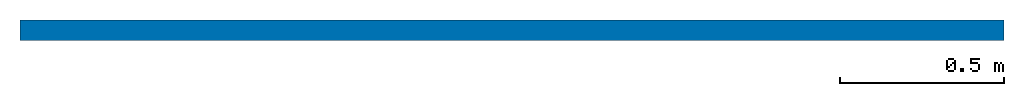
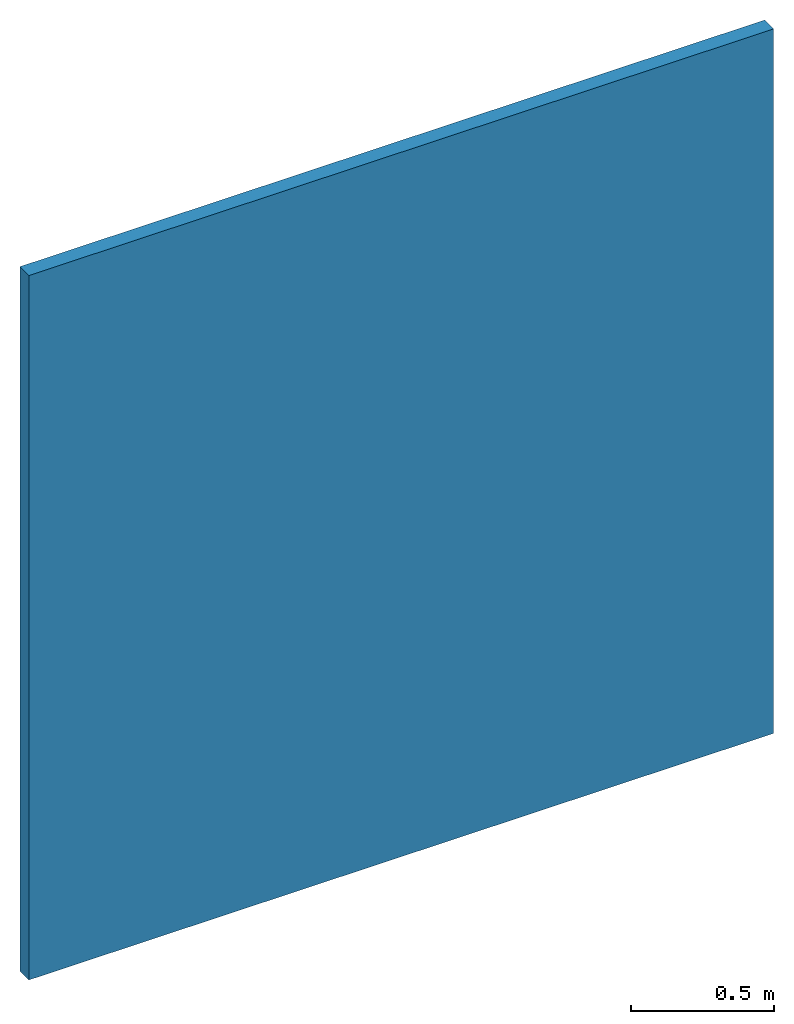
# One storey: 1 wall.
"""IFC2X3 building model written with IfcOpenShell, lengths in millimetres."""

from ifc_helpers import new_model, entity, si_unit, converted_unit, derived_unit, direction, frame, frame_2d, origin, place, context, subcontext, project, spatial, rectangle, extrude, material, layer, layer_set, layer_usage, type_object, element, save


model = new_model("IFC2X3")

# Units and contexts
model_context = context("Model", 3, precision=0.01, world=origin(), true_north=direction((6.12303176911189e-17, 1.0)))
body_context = subcontext(model_context, "Body", "Model", "MODEL_VIEW")
ifc_project = project(units=[si_unit("LENGTHUNIT", "METRE", prefix="MILLI"), si_unit("AREAUNIT", "SQUARE_METRE"), si_unit("VOLUMEUNIT", "CUBIC_METRE"), converted_unit("PLANEANGLEUNIT", "DEGREE", entity("IfcRatioMeasure", 0.0174532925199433), si_unit("PLANEANGLEUNIT", "RADIAN"), dimensions=[0, 0, 0, 0, 0, 0, 0]), si_unit("MASSUNIT", "GRAM", prefix="KILO"), si_unit("TIMEUNIT", "SECOND"), si_unit("FREQUENCYUNIT", "HERTZ"), si_unit("THERMODYNAMICTEMPERATUREUNIT", "DEGREE_CELSIUS"), derived_unit("THERMALTRANSMITTANCEUNIT", [(si_unit("MASSUNIT", "GRAM", prefix="KILO"), 1), (si_unit("THERMODYNAMICTEMPERATUREUNIT", "KELVIN"), -1), (si_unit("TIMEUNIT", "SECOND"), -3)]), derived_unit("VOLUMETRICFLOWRATEUNIT", [(si_unit("LENGTHUNIT", "METRE"), 3), (si_unit("TIMEUNIT", "SECOND"), -1)]), si_unit("ELECTRICCURRENTUNIT", "AMPERE"), si_unit("ELECTRICVOLTAGEUNIT", "VOLT"), si_unit("POWERUNIT", "WATT"), si_unit("FORCEUNIT", "NEWTON", prefix="KILO"), si_unit("ILLUMINANCEUNIT", "LUX"), si_unit("LUMINOUSFLUXUNIT", "LUMEN"), si_unit("LUMINOUSINTENSITYUNIT", "CANDELA"), derived_unit("USERDEFINED", [(si_unit("MASSUNIT", "GRAM", prefix="KILO"), -1), (si_unit("LENGTHUNIT", "METRE"), -2), (si_unit("TIMEUNIT", "SECOND"), 3), (si_unit("LUMINOUSFLUXUNIT", "LUMEN"), 1)]), derived_unit("LINEARVELOCITYUNIT", [(si_unit("LENGTHUNIT", "METRE"), 1), (si_unit("TIMEUNIT", "SECOND"), -1)]), si_unit("PRESSUREUNIT", "PASCAL"), derived_unit("USERDEFINED", [(si_unit("LENGTHUNIT", "METRE"), -2), (si_unit("MASSUNIT", "GRAM", prefix="KILO"), 1), (si_unit("TIMEUNIT", "SECOND"), -2)])], contexts=[model_context])

# Site, building, storey
site_placement = place(None, origin())
site = spatial("IfcSite", under=ifc_project, at=site_placement, Name="Default", CompositionType="ELEMENT")
building_placement = place(site_placement, origin())
building = spatial("IfcBuilding", under=site, at=building_placement, CompositionType="ELEMENT")
storey_placement = place(building_placement, origin())
storey = spatial("IfcBuildingStorey", under=building, at=storey_placement, Name="Уровень 1", CompositionType="ELEMENT", Elevation=0.0)

# Wall
ifc_material_1 = material(Name="КНАУФ-Файерборд")
ifc_layer_1 = layer(ifc_material_1, 12.5)
ifc_material_2 = material(Name="Luft")
ifc_layer_2 = layer(ifc_material_2, 30.0)
ifc_material_3 = material(Name="КНАУФ-профиль+мин.вата 20@600mm")
ifc_layer_3 = layer(ifc_material_3, 20.0)
ifc_layer_set = layer_set([ifc_layer_1, ifc_layer_2, ifc_layer_3], Name="Базовая стена:Облицовка КНАУФ С635 Применение внутри здания ПC50/50 ПН50х40 Файерборд 12.5")
ifc_layer_usage = layer_usage(ifc_layer_set, "AXIS2", "NEGATIVE", 31.25)
wall_type = type_object("IfcWallType", Name="Базовая стена:Облицовка КНАУФ С635 Применение внутри здания ПC50/50 ПН50х40 Файерборд 12.5", PredefinedType="STANDARD", material=ifc_layer_set)
wall_placement = place(storey_placement, frame((-946.622981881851, 296.722586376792, 0.0)))
element("IfcWallStandardCase", 1, at=wall_placement, inside=storey, type_object=wall_type, material=ifc_layer_usage, Name="Базовая стена:Облицовка КНАУФ С635 Применение внутри здания ПC50/50 ПН50х40 Файерборд 12.5", ObjectType="Базовая стена:Облицовка КНАУФ С635 Применение внутри здания ПC50/50 ПН50х40 Файерборд 12.5", context=body_context, shape_type="SweptSolid", body=[
    extrude(rectangle(XDim=3000.0, YDim=62.5, at=frame_2d((1500.0, 1.59872115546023e-14), x_axis=(-1.0, 0.0))), origin(), (0.0, 0.0, 1.0), 3000.0),
])

save(model, "model.ifc")
